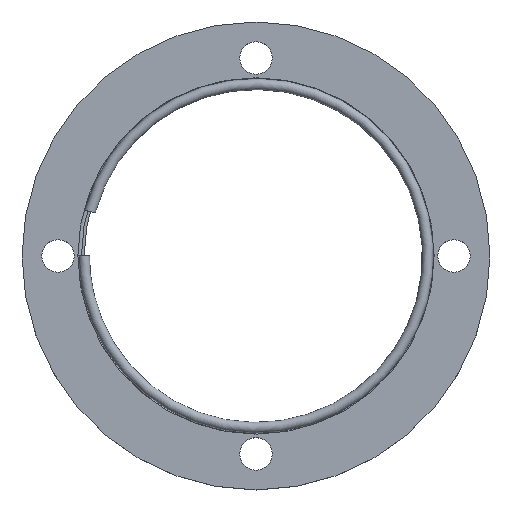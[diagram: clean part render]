
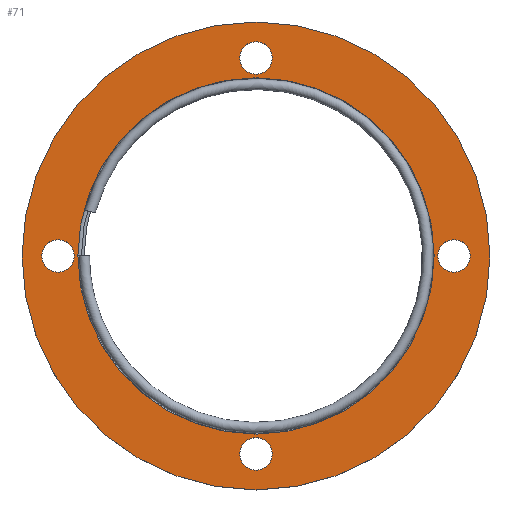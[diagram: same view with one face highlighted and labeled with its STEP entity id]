
A CAD part, top view. The second image highlights one B-rep face of the part: STEP entity #71.
In plain terms, the highlighted planar face has unit normal (0, 0, 1).
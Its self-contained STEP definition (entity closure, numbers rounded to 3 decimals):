
#71 = ADVANCED_FACE( '', ( #147, #148, #149, #150, #151, #152 ), #153, .T. );
#147 = FACE_BOUND( '', #222, .T. );
#148 = FACE_BOUND( '', #223, .T. );
#149 = FACE_BOUND( '', #224, .T. );
#150 = FACE_BOUND( '', #225, .T. );
#151 = FACE_BOUND( '', #226, .T. );
#152 = FACE_OUTER_BOUND( '', #227, .T. );
#153 = PLANE( '', #228 );
#222 = EDGE_LOOP( '', ( #309 ) );
#223 = EDGE_LOOP( '', ( #310 ) );
#224 = EDGE_LOOP( '', ( #311 ) );
#225 = EDGE_LOOP( '', ( #312 ) );
#226 = EDGE_LOOP( '', ( #313 ) );
#227 = EDGE_LOOP( '', ( #314 ) );
#228 = AXIS2_PLACEMENT_3D( '', #315, #316, #317 );
#309 = ORIENTED_EDGE( '', *, *, #347, .F. );
#310 = ORIENTED_EDGE( '', *, *, #333, .F. );
#311 = ORIENTED_EDGE( '', *, *, #324, .F. );
#312 = ORIENTED_EDGE( '', *, *, #340, .F. );
#313 = ORIENTED_EDGE( '', *, *, #342, .T. );
#314 = ORIENTED_EDGE( '', *, *, #349, .F. );
#315 = CARTESIAN_POINT( '', ( -49.5, 0., 12. ) );
#316 = DIRECTION( '', ( 0., 0., 1. ) );
#317 = DIRECTION( '', ( 1., 0., 0. ) );
#324 = EDGE_CURVE( '', #355, #355, #356, .T. );
#333 = EDGE_CURVE( '', #370, #370, #371, .T. );
#340 = EDGE_CURVE( '', #382, #382, #383, .T. );
#342 = EDGE_CURVE( '', #385, #385, #386, .T. );
#347 = EDGE_CURVE( '', #392, #392, #393, .T. );
#349 = EDGE_CURVE( '', #395, #395, #396, .T. );
#355 = VERTEX_POINT( '', #403 );
#356 = CIRCLE( '', #404, 4.5 );
#370 = VERTEX_POINT( '', #418 );
#371 = CIRCLE( '', #419, 4.5 );
#382 = VERTEX_POINT( '', #430 );
#383 = CIRCLE( '', #431, 4.5 );
#385 = VERTEX_POINT( '', #433 );
#386 = CIRCLE( '', #434, 49.5 );
#392 = VERTEX_POINT( '', #440 );
#393 = CIRCLE( '', #441, 4.5 );
#395 = VERTEX_POINT( '', #443 );
#396 = CIRCLE( '', #444, 65. );
#403 = CARTESIAN_POINT( '', ( 0., 50.5, 12. ) );
#404 = AXIS2_PLACEMENT_3D( '', #450, #451, #452 );
#418 = CARTESIAN_POINT( '', ( 50.5, 0., 12. ) );
#419 = AXIS2_PLACEMENT_3D( '', #468, #469, #470 );
#430 = CARTESIAN_POINT( '', ( -50.5, 0., 12. ) );
#431 = AXIS2_PLACEMENT_3D( '', #483, #484, #485 );
#433 = CARTESIAN_POINT( '', ( -49.5, 0., 12. ) );
#434 = AXIS2_PLACEMENT_3D( '', #486, #487, #488 );
#440 = CARTESIAN_POINT( '', ( 0., -50.5, 12. ) );
#441 = AXIS2_PLACEMENT_3D( '', #492, #493, #494 );
#443 = CARTESIAN_POINT( '', ( -65., 0., 12. ) );
#444 = AXIS2_PLACEMENT_3D( '', #495, #496, #497 );
#450 = CARTESIAN_POINT( '', ( 0., 55., 12. ) );
#451 = DIRECTION( '', ( 0., 0., 1. ) );
#452 = DIRECTION( '', ( 0., -1., 0. ) );
#468 = CARTESIAN_POINT( '', ( 55., 0., 12. ) );
#469 = DIRECTION( '', ( 0., 0., 1. ) );
#470 = DIRECTION( '', ( -1., 0., 0. ) );
#483 = CARTESIAN_POINT( '', ( -55., 0., 12. ) );
#484 = DIRECTION( '', ( 0., 0., 1. ) );
#485 = DIRECTION( '', ( 1., 0., 0. ) );
#486 = CARTESIAN_POINT( '', ( 0., 0., 12. ) );
#487 = DIRECTION( '', ( 0., 0., -1. ) );
#488 = DIRECTION( '', ( -1., 0., 0. ) );
#492 = CARTESIAN_POINT( '', ( 0., -55., 12. ) );
#493 = DIRECTION( '', ( 0., 0., 1. ) );
#494 = DIRECTION( '', ( 0., 1., 0. ) );
#495 = CARTESIAN_POINT( '', ( 0., 0., 12. ) );
#496 = DIRECTION( '', ( 0., 0., -1. ) );
#497 = DIRECTION( '', ( -1., 0., 0. ) );
